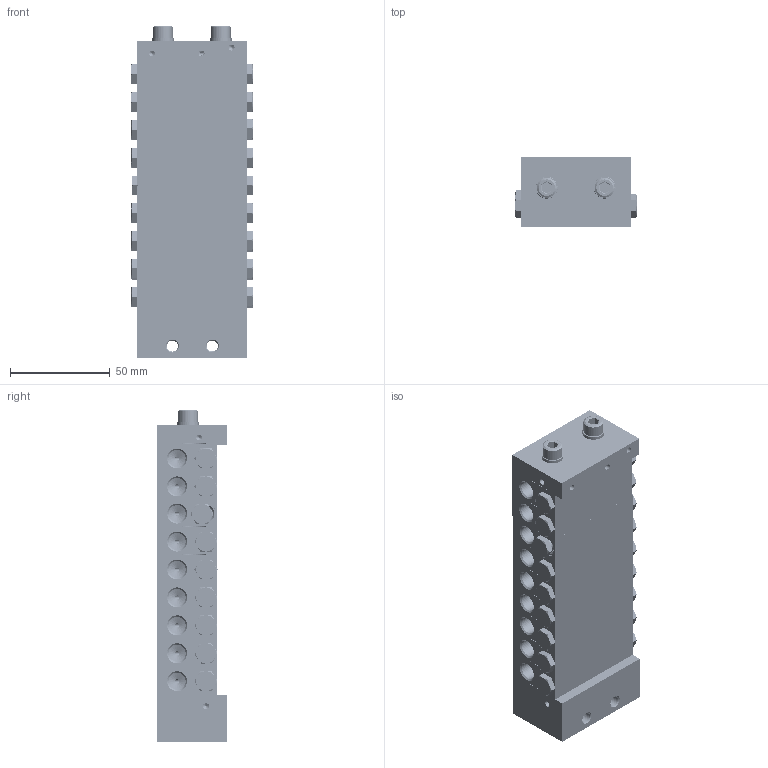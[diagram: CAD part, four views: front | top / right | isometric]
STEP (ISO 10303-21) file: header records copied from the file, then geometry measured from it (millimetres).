
FILE_DESCRIPTION (( 'STEP AP214' ), '1' );
FILE_NAME ('STW_XV_18_Auslässe.STEP', '2025-09-16T11:25:46', ( '' ), ( '' ), 'SwSTEP 2.0', 'SolidWorks 2022', '' );
FILE_SCHEMA (( 'AUTOMOTIVE_DESIGN' ));
Length unit declared in the file: millimetre
Products named in the file (10): STW_XV_Kolbenanschlag; STW_XV_MITTEL_1; STW_XV_Verbindungsstopen; STW_XV_END; Verschlussstopfen_1_8; M6X65_DIN_912; STW_XV_18_Auslässe; O_RING_3X1; U_Scheibe_6; STW_XV_ENGANG
Assembly tree (64 placements, depth 2):
  STW_XV_18_Auslässe
    STW_XV_ENGANG
    O_RING_3X1  x4
    STW_XV_MITTEL_1  x9
    STW_XV_END
    Verschlussstopfen_1_8  x18
    STW_XV_Kolbenanschlag  x18
    STW_XV_Verbindungsstopen  x9
    M6X65_DIN_912  x2
    U_Scheibe_6  x2
Bounding box: 61.32 x 35.03 x 166.48 mm (x, y, z)
Volume: 245035.2 mm3; surface area: 123867.3 mm2
Topology: 64 solids, 64 shells, 2502 faces, 6622 edges, 4240 vertices
Faces by surface type: plane 1157, cylinder 706, cone 521, bspline 118
Full cylindrical faces by diameter (mm): 2 x233, 3 x16, 5 x92, 5.5 x2, 5.9 x2, 6 x2, 6.2 x20, 6.4 x2, 6.5 x18, 7 x18, 8 x18, 8.4 x9, 8.6 x45, 9 x19, 9.7 x18, 9.73 x9, 10 x20, 11 x2, 15 x1
Entity records: 30064 total; most frequent: CARTESIAN_POINT 17215, ORIENTED_EDGE 2526, DIRECTION 2125, EDGE_CURVE 1263, VERTEX_POINT 896, EDGE_LOOP 821, AXIS2_PLACEMENT_3D 727, LINE 671
